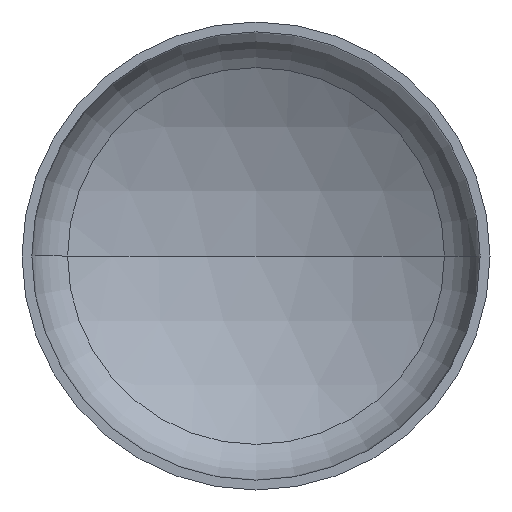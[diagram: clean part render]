
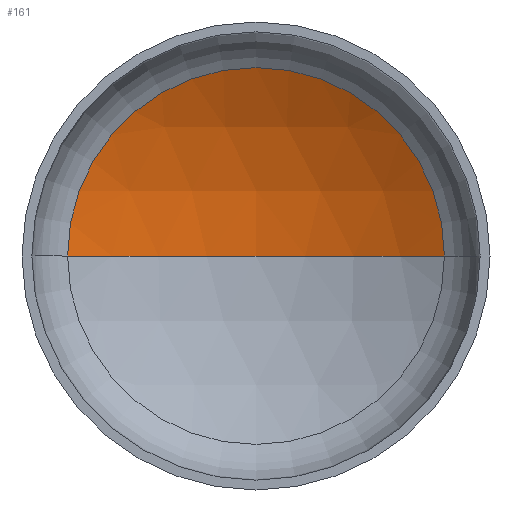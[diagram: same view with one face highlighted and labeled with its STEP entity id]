
A CAD part, front view. The second image highlights one B-rep face of the part: STEP entity #161.
In plain terms, the highlighted spherical face has radius 3200 mm.
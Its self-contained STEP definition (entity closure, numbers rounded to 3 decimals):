
#12 = AXIS2_PLACEMENT_3D ( 'NONE', #165, #68, #274 ) ;
#15 = AXIS2_PLACEMENT_3D ( 'NONE', #160, #157, #159 ) ;
#17 = ORIENTED_EDGE ( 'NONE', *, *, #330, .T. ) ;
#21 = EDGE_LOOP ( 'NONE', ( #73, #27, #17 ) ) ;
#24 = VERTEX_POINT ( 'NONE', #272 ) ;
#27 = ORIENTED_EDGE ( 'NONE', *, *, #338, .T. ) ;
#46 = AXIS2_PLACEMENT_3D ( 'NONE', #188, #211, #379 ) ;
#68 = DIRECTION ( 'NONE',  ( 0., 0., -1. ) ) ;
#73 = ORIENTED_EDGE ( 'NONE', *, *, #376, .F. ) ;
#74 = VERTEX_POINT ( 'NONE', #241 ) ;
#109 = VERTEX_POINT ( 'NONE', #289 ) ;
#147 = CARTESIAN_POINT ( 'NONE',  ( 0., -2133.747, 0. ) ) ;
#157 = DIRECTION ( 'NONE',  ( 0., -1., 0. ) ) ;
#159 = DIRECTION ( 'NONE',  ( 1., 0., 0. ) ) ;
#160 = CARTESIAN_POINT ( 'NONE',  ( 0., 631.433, 0. ) ) ;
#161 = ADVANCED_FACE ( 'NONE', ( #187 ), #247, .F. ) ;
#165 = CARTESIAN_POINT ( 'NONE',  ( 0., -2133.747, 0. ) ) ;
#187 = FACE_OUTER_BOUND ( 'NONE', #21, .T. ) ;
#188 = CARTESIAN_POINT ( 'NONE',  ( 0., -2133.747, 0. ) ) ;
#211 = DIRECTION ( 'NONE',  ( 0., 0., -1. ) ) ;
#220 = CIRCLE ( 'NONE', #15, 1610.522 ) ;
#241 = CARTESIAN_POINT ( 'NONE',  ( 1610.522, 631.433, 0. ) ) ;
#247 = SPHERICAL_SURFACE ( 'NONE', #46, 3200. ) ;
#261 = CIRCLE ( 'NONE', #380, 3200. ) ;
#272 = CARTESIAN_POINT ( 'NONE',  ( 0., 1066.253, 0. ) ) ;
#274 = DIRECTION ( 'NONE',  ( -1., 0., 0. ) ) ;
#277 = CIRCLE ( 'NONE', #12, 3200. ) ;
#289 = CARTESIAN_POINT ( 'NONE',  ( -1610.522, 631.433, 0. ) ) ;
#310 = DIRECTION ( 'NONE',  ( 0., 0., 1. ) ) ;
#330 = EDGE_CURVE ( 'NONE', #74, #109, #220, .T. ) ;
#338 = EDGE_CURVE ( 'NONE', #24, #74, #277, .T. ) ;
#376 = EDGE_CURVE ( 'NONE', #24, #109, #261, .T. ) ;
#379 = DIRECTION ( 'NONE',  ( -1., 0., 0. ) ) ;
#380 = AXIS2_PLACEMENT_3D ( 'NONE', #147, #310, #406 ) ;
#406 = DIRECTION ( 'NONE',  ( 1., 0., 0. ) ) ;
